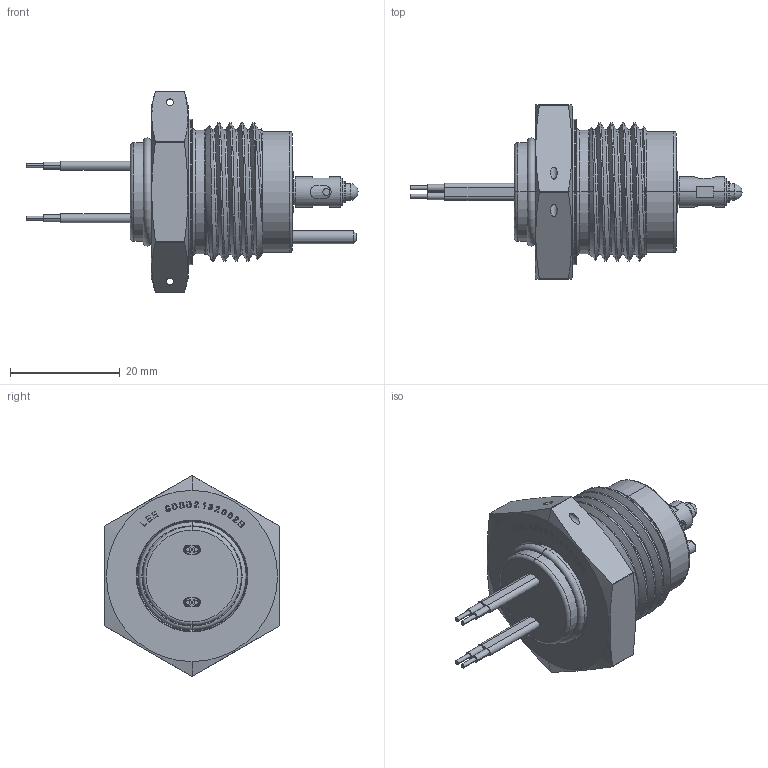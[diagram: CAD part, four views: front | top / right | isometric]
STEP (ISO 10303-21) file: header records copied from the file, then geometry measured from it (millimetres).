
FILE_DESCRIPTION(('Creo Elements/Direct Modeling STEP Export'),'2;1');
FILE_NAME('SDBB2132002B.stp','2023-01-30T12:37:50',(''),(''),'Creo Elements/Direct Modeling STEP processor for AP214 (Solid Model)','Creo Elements/Direct Modeling 18.1 03-Mar-2012 (C) Parametric Technology GmbH','');
FILE_SCHEMA(('AUTOMOTIVE_DESIGN { 1 0 10303 214 1 1 1 1 }'));
Length unit declared in the file: millimetre
Products named in the file (2): SDBB2132002B
Assembly tree (1 placements, depth 2):
  SDBB2132002B
    SDBB2132002B
Bounding box: 60.58 x 31.75 x 36.62 mm (x, y, z)
Volume: 15295.8 mm3; surface area: 5299 mm2
Topology: 1 solids, 1 shells, 815 faces, 2262 edges, 1499 vertices
Faces by surface type: plane 688, cylinder 80, cone 25, torus 18, bspline 2, sphere 2
Entity records: 30640 total; most frequent: CARTESIAN_POINT 9270, ORIENTED_EDGE 4520, DIRECTION 3753, EDGE_CURVE 2260, VECTOR 1967, LINE 1967, VERTEX_POINT 1499, AXIS2_PLACEMENT_3D 893
